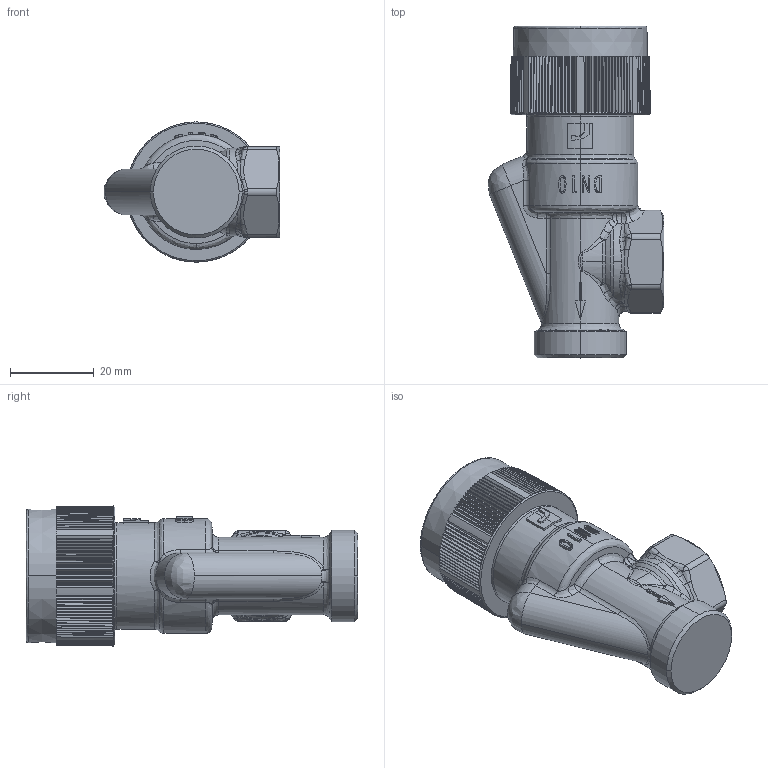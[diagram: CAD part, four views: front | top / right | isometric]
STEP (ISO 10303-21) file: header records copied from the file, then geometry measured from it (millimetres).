
FILE_DESCRIPTION (( 'STEP AP203' ), '1' );
FILE_NAME ('443112.STEP', '2021-06-22T15:07:10', ( '' ), ( '' ), 'SwSTEP 2.0', 'SolidWorks 2016', '' );
FILE_SCHEMA (( 'CONFIG_CONTROL_DESIGN' ));
Length unit declared in the file: millimetre
Products named in the file (1): 443112
Bounding box: 42.06 x 79.35 x 33.5 mm (x, y, z)
Volume: 47872 mm3; surface area: 10100 mm2
Topology: 1 solids, 1 shells, 746 faces, 1972 edges, 1234 vertices
Faces by surface type: plane 261, cylinder 192, bspline 158, cone 135
Entity records: 37316 total; most frequent: CARTESIAN_POINT 21201, ORIENTED_EDGE 3940, DIRECTION 2587, EDGE_CURVE 1970, VERTEX_POINT 1234, AXIS2_PLACEMENT_3D 942, EDGE_LOOP 754, ADVANCED_FACE 746
